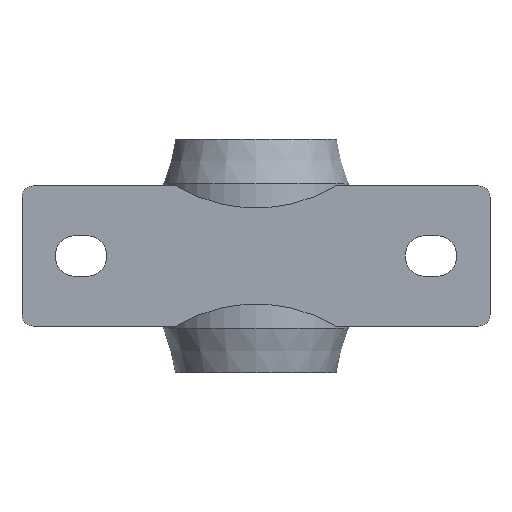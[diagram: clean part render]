
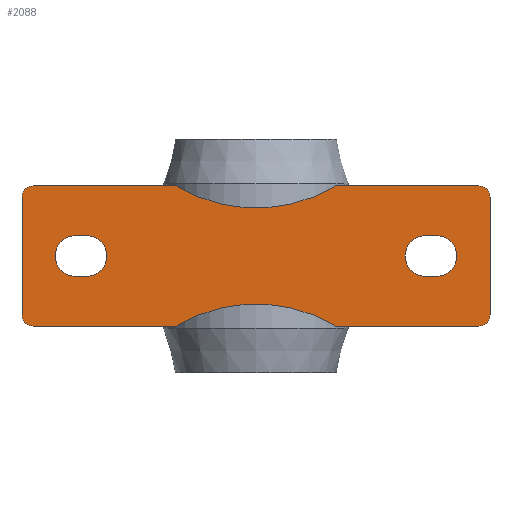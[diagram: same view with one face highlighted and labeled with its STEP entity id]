
A CAD part, front view. The second image highlights one B-rep face of the part: STEP entity #2088.
In plain terms, the highlighted planar face has unit normal (0, -1, 0).
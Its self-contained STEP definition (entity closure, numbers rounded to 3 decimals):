
#97=FACE_BOUND('',#302,.T.);
#98=FACE_BOUND('',#303,.T.);
#122=PLANE('',#2317);
#182=FACE_OUTER_BOUND('',#301,.T.);
#301=EDGE_LOOP('',(#1360,#1361,#1362,#1363,#1364,#1365,#1366,#1367,#1368,
#1369,#1370,#1371));
#302=EDGE_LOOP('',(#1372,#1373,#1374,#1375));
#303=EDGE_LOOP('',(#1376,#1377,#1378,#1379));
#479=LINE('',#3224,#608);
#480=LINE('',#3228,#609);
#481=LINE('',#3232,#610);
#482=LINE('',#3236,#611);
#483=LINE('',#3240,#612);
#484=LINE('',#3243,#613);
#485=LINE('',#3248,#614);
#486=LINE('',#3251,#615);
#487=LINE('',#3256,#616);
#488=LINE('',#3259,#617);
#608=VECTOR('',#2571,10.);
#609=VECTOR('',#2574,10.);
#610=VECTOR('',#2577,10.);
#611=VECTOR('',#2580,10.);
#612=VECTOR('',#2583,10.);
#613=VECTOR('',#2586,10.);
#614=VECTOR('',#2589,10.);
#615=VECTOR('',#2592,10.);
#616=VECTOR('',#2595,10.);
#617=VECTOR('',#2598,10.);
#738=CIRCLE('',#2318,3.);
#739=CIRCLE('',#2319,42.);
#740=CIRCLE('',#2320,3.);
#741=CIRCLE('',#2321,3.);
#742=CIRCLE('',#2322,42.);
#743=CIRCLE('',#2323,3.);
#744=CIRCLE('',#2324,5.5);
#745=CIRCLE('',#2325,5.5);
#746=CIRCLE('',#2326,5.5);
#747=CIRCLE('',#2327,5.5);
#850=VERTEX_POINT('',#3220);
#851=VERTEX_POINT('',#3221);
#852=VERTEX_POINT('',#3223);
#853=VERTEX_POINT('',#3225);
#854=VERTEX_POINT('',#3227);
#855=VERTEX_POINT('',#3229);
#856=VERTEX_POINT('',#3231);
#857=VERTEX_POINT('',#3233);
#858=VERTEX_POINT('',#3235);
#859=VERTEX_POINT('',#3237);
#860=VERTEX_POINT('',#3239);
#861=VERTEX_POINT('',#3241);
#862=VERTEX_POINT('',#3244);
#863=VERTEX_POINT('',#3245);
#864=VERTEX_POINT('',#3247);
#865=VERTEX_POINT('',#3249);
#866=VERTEX_POINT('',#3252);
#867=VERTEX_POINT('',#3253);
#868=VERTEX_POINT('',#3255);
#869=VERTEX_POINT('',#3257);
#1056=EDGE_CURVE('',#850,#851,#738,.T.);
#1057=EDGE_CURVE('',#850,#852,#479,.T.);
#1058=EDGE_CURVE('',#852,#853,#739,.T.);
#1059=EDGE_CURVE('',#853,#854,#480,.T.);
#1060=EDGE_CURVE('',#855,#854,#740,.T.);
#1061=EDGE_CURVE('',#855,#856,#481,.T.);
#1062=EDGE_CURVE('',#857,#856,#741,.T.);
#1063=EDGE_CURVE('',#858,#857,#482,.T.);
#1064=EDGE_CURVE('',#858,#859,#742,.T.);
#1065=EDGE_CURVE('',#860,#859,#483,.T.);
#1066=EDGE_CURVE('',#861,#860,#743,.T.);
#1067=EDGE_CURVE('',#861,#851,#484,.T.);
#1068=EDGE_CURVE('',#862,#863,#744,.T.);
#1069=EDGE_CURVE('',#863,#864,#485,.T.);
#1070=EDGE_CURVE('',#864,#865,#745,.T.);
#1071=EDGE_CURVE('',#865,#862,#486,.T.);
#1072=EDGE_CURVE('',#866,#867,#746,.T.);
#1073=EDGE_CURVE('',#867,#868,#487,.T.);
#1074=EDGE_CURVE('',#868,#869,#747,.T.);
#1075=EDGE_CURVE('',#869,#866,#488,.T.);
#1360=ORIENTED_EDGE('',*,*,#1056,.F.);
#1361=ORIENTED_EDGE('',*,*,#1057,.T.);
#1362=ORIENTED_EDGE('',*,*,#1058,.T.);
#1363=ORIENTED_EDGE('',*,*,#1059,.T.);
#1364=ORIENTED_EDGE('',*,*,#1060,.F.);
#1365=ORIENTED_EDGE('',*,*,#1061,.T.);
#1366=ORIENTED_EDGE('',*,*,#1062,.F.);
#1367=ORIENTED_EDGE('',*,*,#1063,.F.);
#1368=ORIENTED_EDGE('',*,*,#1064,.T.);
#1369=ORIENTED_EDGE('',*,*,#1065,.F.);
#1370=ORIENTED_EDGE('',*,*,#1066,.F.);
#1371=ORIENTED_EDGE('',*,*,#1067,.T.);
#1372=ORIENTED_EDGE('',*,*,#1068,.T.);
#1373=ORIENTED_EDGE('',*,*,#1069,.T.);
#1374=ORIENTED_EDGE('',*,*,#1070,.T.);
#1375=ORIENTED_EDGE('',*,*,#1071,.T.);
#1376=ORIENTED_EDGE('',*,*,#1072,.T.);
#1377=ORIENTED_EDGE('',*,*,#1073,.T.);
#1378=ORIENTED_EDGE('',*,*,#1074,.T.);
#1379=ORIENTED_EDGE('',*,*,#1075,.T.);
#2088=ADVANCED_FACE('',(#182,#97,#98),#122,.F.);
#2317=AXIS2_PLACEMENT_3D('',#3219,#2567,#2568);
#2318=AXIS2_PLACEMENT_3D('',#3222,#2569,#2570);
#2319=AXIS2_PLACEMENT_3D('',#3226,#2572,#2573);
#2320=AXIS2_PLACEMENT_3D('',#3230,#2575,#2576);
#2321=AXIS2_PLACEMENT_3D('',#3234,#2578,#2579);
#2322=AXIS2_PLACEMENT_3D('',#3238,#2581,#2582);
#2323=AXIS2_PLACEMENT_3D('',#3242,#2584,#2585);
#2324=AXIS2_PLACEMENT_3D('',#3246,#2587,#2588);
#2325=AXIS2_PLACEMENT_3D('',#3250,#2590,#2591);
#2326=AXIS2_PLACEMENT_3D('',#3254,#2593,#2594);
#2327=AXIS2_PLACEMENT_3D('',#3258,#2596,#2597);
#2567=DIRECTION('center_axis',(0.,1.,0.));
#2568=DIRECTION('ref_axis',(0.,0.,1.));
#2569=DIRECTION('center_axis',(0.,1.,0.));
#2570=DIRECTION('ref_axis',(-0.707,0.,-0.707));
#2571=DIRECTION('',(1.,0.,0.));
#2572=DIRECTION('center_axis',(0.,1.,0.));
#2573=DIRECTION('ref_axis',(1.,0.,0.));
#2574=DIRECTION('',(1.,0.,0.));
#2575=DIRECTION('center_axis',(0.,1.,0.));
#2576=DIRECTION('ref_axis',(0.707,0.,-0.707));
#2577=DIRECTION('',(0.,0.,1.));
#2578=DIRECTION('center_axis',(0.,1.,0.));
#2579=DIRECTION('ref_axis',(0.707,0.,0.707));
#2580=DIRECTION('',(1.,0.,0.));
#2581=DIRECTION('center_axis',(0.,1.,0.));
#2582=DIRECTION('ref_axis',(1.,0.,0.));
#2583=DIRECTION('',(1.,0.,0.));
#2584=DIRECTION('center_axis',(0.,1.,0.));
#2585=DIRECTION('ref_axis',(-0.707,0.,0.707));
#2586=DIRECTION('',(0.,0.,-1.));
#2587=DIRECTION('center_axis',(0.,1.,0.));
#2588=DIRECTION('ref_axis',(0.,0.,1.));
#2589=DIRECTION('',(1.,0.,0.));
#2590=DIRECTION('center_axis',(0.,1.,0.));
#2591=DIRECTION('ref_axis',(0.,0.,-1.));
#2592=DIRECTION('',(-1.,0.,0.));
#2593=DIRECTION('center_axis',(0.,1.,0.));
#2594=DIRECTION('ref_axis',(0.,0.,1.));
#2595=DIRECTION('',(-1.,0.,0.));
#2596=DIRECTION('center_axis',(0.,1.,0.));
#2597=DIRECTION('ref_axis',(0.,0.,-1.));
#2598=DIRECTION('',(1.,0.,0.));
#3219=CARTESIAN_POINT('Origin',(-31.7,-33.3,0.));
#3220=CARTESIAN_POINT('',(-60.5,-33.3,-19.));
#3221=CARTESIAN_POINT('',(-63.5,-33.3,-16.));
#3222=CARTESIAN_POINT('Origin',(-60.5,-33.3,-16.));
#3223=CARTESIAN_POINT('',(-21.633,-33.3,-19.));
#3224=CARTESIAN_POINT('',(-63.5,-33.3,-19.));
#3225=CARTESIAN_POINT('',(21.633,-33.3,-19.));
#3226=CARTESIAN_POINT('Origin',(0.,-33.3,-55.));
#3227=CARTESIAN_POINT('',(60.5,-33.3,-19.));
#3228=CARTESIAN_POINT('',(-63.5,-33.3,-19.));
#3229=CARTESIAN_POINT('',(63.5,-33.3,-16.));
#3230=CARTESIAN_POINT('Origin',(60.5,-33.3,-16.));
#3231=CARTESIAN_POINT('',(63.5,-33.3,16.));
#3232=CARTESIAN_POINT('',(63.5,-33.3,0.));
#3233=CARTESIAN_POINT('',(60.5,-33.3,19.));
#3234=CARTESIAN_POINT('Origin',(60.5,-33.3,16.));
#3235=CARTESIAN_POINT('',(21.633,-33.3,19.));
#3236=CARTESIAN_POINT('',(-10.,-33.3,19.));
#3237=CARTESIAN_POINT('',(-21.633,-33.3,19.));
#3238=CARTESIAN_POINT('Origin',(0.,-33.3,55.));
#3239=CARTESIAN_POINT('',(-60.5,-33.3,19.));
#3240=CARTESIAN_POINT('',(-10.,-33.3,19.));
#3241=CARTESIAN_POINT('',(-63.5,-33.3,16.));
#3242=CARTESIAN_POINT('Origin',(-60.5,-33.3,16.));
#3243=CARTESIAN_POINT('',(-63.5,-33.3,0.));
#3244=CARTESIAN_POINT('',(46.,-33.3,-5.5));
#3245=CARTESIAN_POINT('',(46.,-33.3,5.5));
#3246=CARTESIAN_POINT('Origin',(46.,-33.3,0.));
#3247=CARTESIAN_POINT('',(49.,-33.3,5.5));
#3248=CARTESIAN_POINT('',(8.65,-33.3,5.5));
#3249=CARTESIAN_POINT('',(49.,-33.3,-5.5));
#3250=CARTESIAN_POINT('Origin',(49.,-33.3,0.));
#3251=CARTESIAN_POINT('',(7.15,-33.3,-5.5));
#3252=CARTESIAN_POINT('',(-46.,-33.3,5.5));
#3253=CARTESIAN_POINT('',(-46.,-33.3,-5.5));
#3254=CARTESIAN_POINT('Origin',(-46.,-33.3,0.));
#3255=CARTESIAN_POINT('',(-49.,-33.3,-5.5));
#3256=CARTESIAN_POINT('',(-40.35,-33.3,-5.5));
#3257=CARTESIAN_POINT('',(-49.,-33.3,5.5));
#3258=CARTESIAN_POINT('Origin',(-49.,-33.3,0.));
#3259=CARTESIAN_POINT('',(-38.85,-33.3,5.5));
